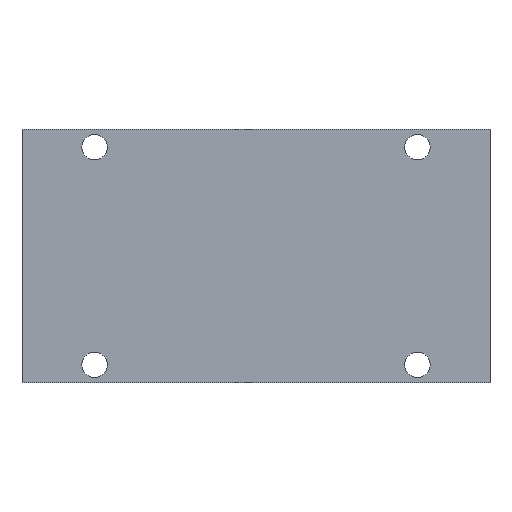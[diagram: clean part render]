
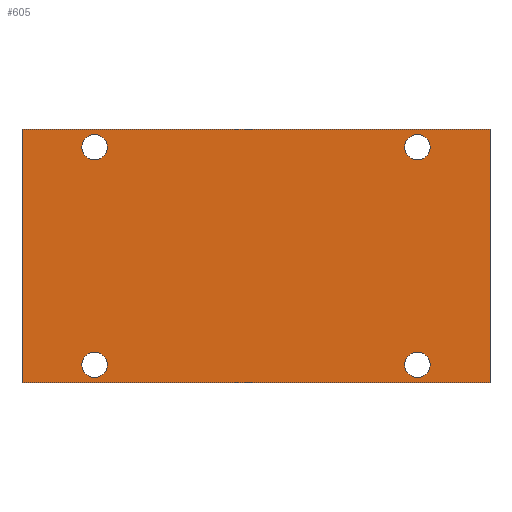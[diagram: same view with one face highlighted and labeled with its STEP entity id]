
A CAD part, front view. The second image highlights one B-rep face of the part: STEP entity #605.
In plain terms, the highlighted planar face has unit normal (0, -1, 0).
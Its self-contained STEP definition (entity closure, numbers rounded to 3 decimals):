
#16=FACE_BOUND('',#104,.T.);
#17=FACE_BOUND('',#105,.T.);
#18=FACE_BOUND('',#106,.T.);
#19=FACE_BOUND('',#107,.T.);
#39=PLANE('',#666);
#69=FACE_OUTER_BOUND('',#103,.T.);
#103=EDGE_LOOP('',(#530,#531,#532,#533));
#104=EDGE_LOOP('',(#534));
#105=EDGE_LOOP('',(#535));
#106=EDGE_LOOP('',(#536));
#107=EDGE_LOOP('',(#537));
#138=LINE('',#916,#206);
#142=LINE('',#924,#210);
#147=LINE('',#933,#215);
#175=LINE('',#997,#243);
#206=VECTOR('',#747,10.);
#210=VECTOR('',#753,10.);
#215=VECTOR('',#762,10.);
#243=VECTOR('',#824,10.);
#258=CIRCLE('',#651,1.75);
#259=CIRCLE('',#653,1.75);
#260=CIRCLE('',#655,1.75);
#261=CIRCLE('',#657,1.75);
#292=VERTEX_POINT('',#913);
#293=VERTEX_POINT('',#915);
#295=VERTEX_POINT('',#921);
#296=VERTEX_POINT('',#923);
#302=VERTEX_POINT('',#942);
#303=VERTEX_POINT('',#946);
#304=VERTEX_POINT('',#950);
#305=VERTEX_POINT('',#954);
#358=EDGE_CURVE('',#292,#293,#138,.T.);
#362=EDGE_CURVE('',#295,#296,#142,.T.);
#367=EDGE_CURVE('',#292,#296,#147,.T.);
#372=EDGE_CURVE('',#302,#302,#258,.T.);
#374=EDGE_CURVE('',#303,#303,#259,.T.);
#376=EDGE_CURVE('',#304,#304,#260,.T.);
#378=EDGE_CURVE('',#305,#305,#261,.T.);
#399=EDGE_CURVE('',#293,#295,#175,.T.);
#530=ORIENTED_EDGE('',*,*,#362,.F.);
#531=ORIENTED_EDGE('',*,*,#399,.F.);
#532=ORIENTED_EDGE('',*,*,#358,.F.);
#533=ORIENTED_EDGE('',*,*,#367,.T.);
#534=ORIENTED_EDGE('',*,*,#372,.T.);
#535=ORIENTED_EDGE('',*,*,#374,.T.);
#536=ORIENTED_EDGE('',*,*,#376,.T.);
#537=ORIENTED_EDGE('',*,*,#378,.T.);
#605=ADVANCED_FACE('',(#69,#16,#17,#18,#19),#39,.T.);
#651=AXIS2_PLACEMENT_3D('',#943,#769,#770);
#653=AXIS2_PLACEMENT_3D('',#947,#774,#775);
#655=AXIS2_PLACEMENT_3D('',#951,#779,#780);
#657=AXIS2_PLACEMENT_3D('',#955,#784,#785);
#666=AXIS2_PLACEMENT_3D('',#996,#822,#823);
#747=DIRECTION('',(-1.,0.,0.));
#753=DIRECTION('',(1.,0.,0.));
#762=DIRECTION('',(0.,0.,1.));
#769=DIRECTION('center_axis',(0.,1.,0.));
#770=DIRECTION('ref_axis',(0.,0.,-1.));
#774=DIRECTION('center_axis',(0.,1.,0.));
#775=DIRECTION('ref_axis',(0.,0.,-1.));
#779=DIRECTION('center_axis',(0.,1.,0.));
#780=DIRECTION('ref_axis',(0.,0.,-1.));
#784=DIRECTION('center_axis',(0.,1.,0.));
#785=DIRECTION('ref_axis',(0.,0.,-1.));
#822=DIRECTION('center_axis',(0.,-1.,0.));
#823=DIRECTION('ref_axis',(0.,0.,-1.));
#824=DIRECTION('',(0.,0.,1.));
#913=CARTESIAN_POINT('',(64.5,-2.,-5.));
#915=CARTESIAN_POINT('',(0.,-2.,-5.));
#916=CARTESIAN_POINT('',(0.,-2.,-5.));
#921=CARTESIAN_POINT('',(0.,-2.,30.));
#923=CARTESIAN_POINT('',(64.5,-2.,30.));
#924=CARTESIAN_POINT('',(0.,-2.,30.));
#933=CARTESIAN_POINT('',(64.5,-2.,27.));
#942=CARTESIAN_POINT('',(54.5,-2.,-0.75));
#943=CARTESIAN_POINT('Origin',(54.5,-2.,-2.5));
#946=CARTESIAN_POINT('',(10.,-2.,29.25));
#947=CARTESIAN_POINT('Origin',(10.,-2.,27.5));
#950=CARTESIAN_POINT('',(54.5,-2.,29.25));
#951=CARTESIAN_POINT('Origin',(54.5,-2.,27.5));
#954=CARTESIAN_POINT('',(10.,-2.,-0.75));
#955=CARTESIAN_POINT('Origin',(10.,-2.,-2.5));
#996=CARTESIAN_POINT('Origin',(0.,-2.,25.));
#997=CARTESIAN_POINT('',(0.,-2.,0.));
